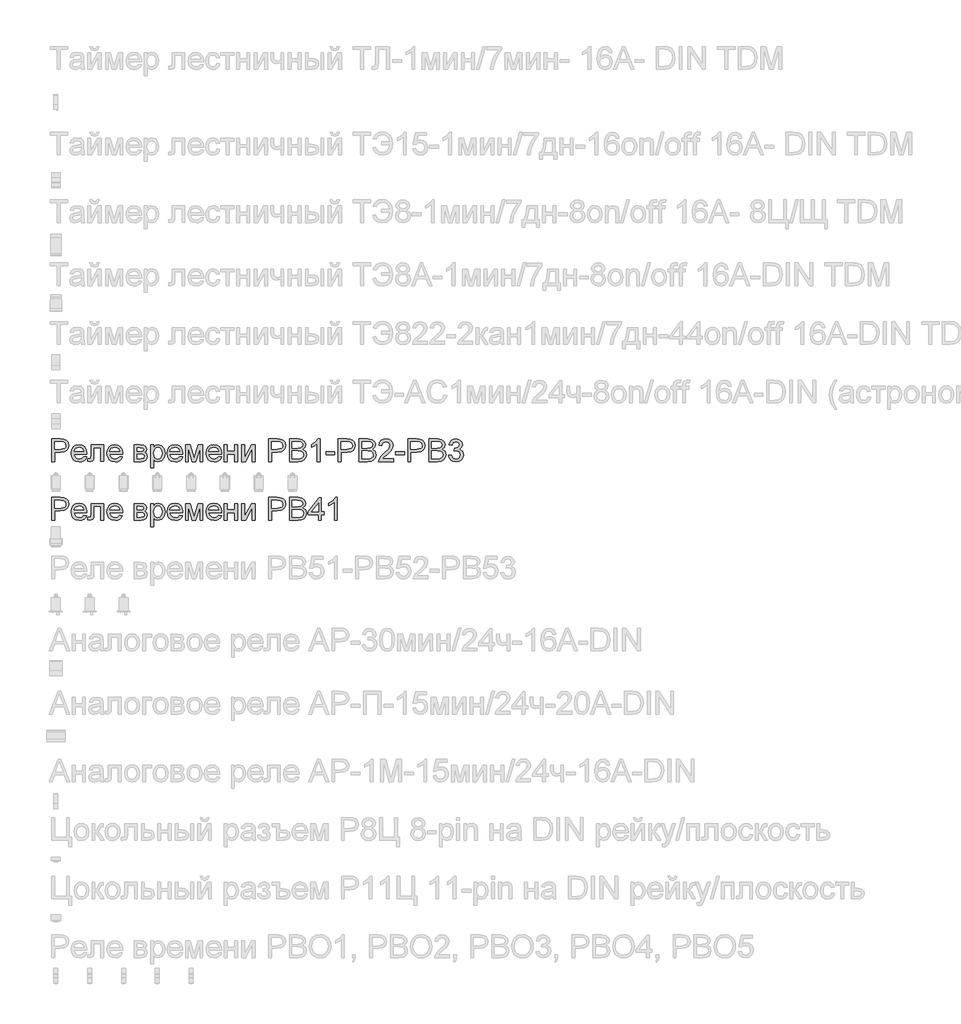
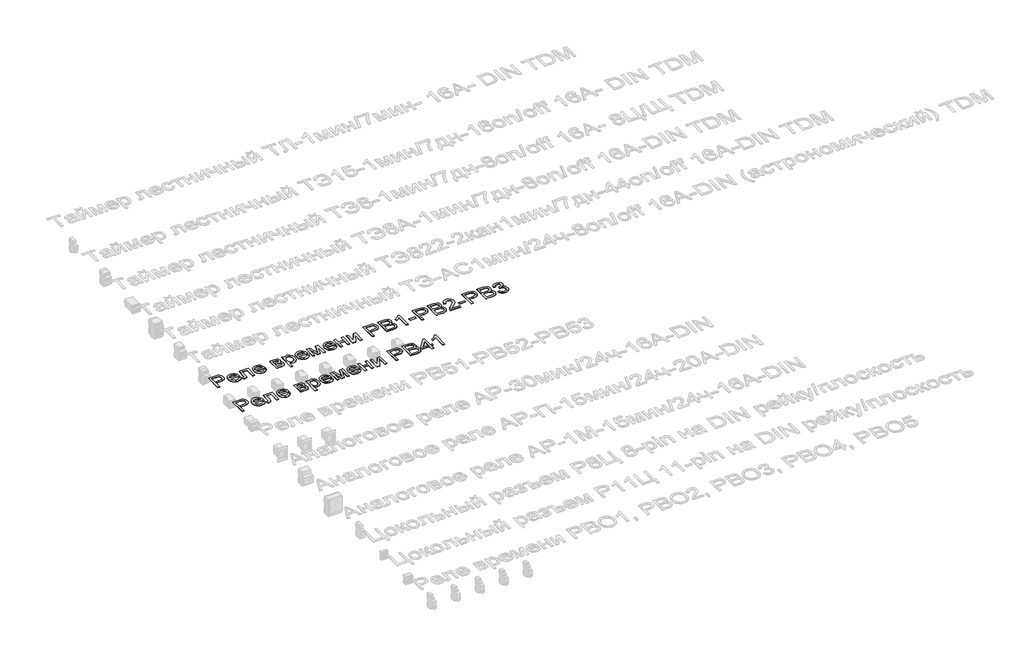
# One storey, part 27 of 34: 2 proxies.
"""IFC4 building model written with IfcOpenShell, lengths in millimetres."""

from ifc_helpers import new_model, si_unit, frame, origin, place, context, project, spatial, polyline, outline, extrude, element, save

model = new_model("IFC4")

# Units and contexts
model_context = context("Model", 3, world=origin())
ifc_project = project(units=[si_unit("LENGTHUNIT", "METRE", prefix="MILLI")], contexts=[model_context])

# Site, building, storey
site = spatial("IfcSite", under=ifc_project)
building = spatial("IfcBuilding", under=site)
storey = spatial("IfcBuildingStorey", under=building, Name="Этаж 01", Elevation=0.0)

# Proxies
placement = place(None, origin())
element("IfcBuildingElementProxy", 1, Name="Надпись на модели 1", ObjectType="Надпись на модели 1", at=placement, inside=storey, context=model_context, shape_type="SweptSolid", body=[
    extrude(outline(polyline([(-19039.0125911, 16796.235284), (-19039.0125911, 16896.6915941), (-19001.7829332, 16896.6915941), (-18986.7733478, 16895.735101), (-18974.5719283, 16891.0384742), (-18966.6624654, 16881.3263895), (-18963.6703585, 16867.6289165), (-18965.6906438, 16855.7892476), (-18971.7514996, 16845.9238788), (-18983.0853308, 16839.2652147), (-19000.9245418, 16837.04566), (-19026.4555523, 16837.04566), (-19026.4555523, 16796.235284), (-19039.0125911, 16796.235284)]), holes=[polyline([(-19026.4555523, 16849.6026988), (-19000.1887779, 16849.6026988), (-18981.6965762, 16854.2134864), (-18977.594692, 16859.7623732), (-18976.2273972, 16867.1874581), (-18979.4524961, 16877.5862559), (-18987.9260447, 16883.2761641), (-19000.4830834, 16884.1345554), (-19026.4555523, 16884.1345554), (-19026.4555523, 16849.6026988)])]), frame((0.0, 0.0, 40.0), z_axis=(0.0, 0.0, 1.0), x_axis=(1.0, 0.0, 0.0)), (0.0, 0.0, 1.0), 2.0),
    extrude(outline(polyline([(-18896.3234279, 16818.2101018), (-18884.0116438, 16816.640472), (-18888.4476875, 16807.3637143), (-18895.5263502, 16800.4291387), (-18905.0882164, 16796.1065253), (-18916.9738705, 16794.6656541), (-18931.7075445, 16797.1519233), (-18943.0444413, 16804.6107308), (-18950.2733225, 16816.5576985), (-18952.6829495, 16832.5084487), (-18950.248797, 16848.9956935), (-18942.9463394, 16861.3258717), (-18931.7627268, 16869.0146054), (-18917.6851091, 16871.5775166), (-18904.0458841, 16869.0207367), (-18893.14738, 16861.3503971), (-18886.0012722, 16849.0447444), (-18883.6192363, 16832.5820251), (-18883.6928127, 16829.1975108), (-18940.1259108, 16829.1975108), (-18937.9523413, 16819.7981258), (-18932.9031609, 16812.8880756), (-18925.6160317, 16808.6390386), (-18916.7286159, 16807.2226929), (-18904.4168318, 16809.8469178), (-18896.3234279, 16818.2101018)]), holes=[polyline([(-18940.1259108, 16841.7545495), (-18896.1762751, 16841.7545495), (-18901.2039957, 16853.1343659), (-18908.5248474, 16857.5489499), (-18917.73416, 16859.0204778), (-18933.1974665, 16854.323851), (-18938.0627059, 16848.8332123), (-18940.1259108, 16841.7545495)])]), frame((0.0, 0.0, 40.0), z_axis=(0.0, 0.0, 1.0), x_axis=(1.0, 0.0, 0.0)), (0.0, 0.0, 1.0), 2.0),
    extrude(outline(polyline([(-18864.7836782, 16870.0078868), (-18808.2770037, 16870.0078868), (-18808.2770037, 16796.3088604), (-18820.8340425, 16796.3088604), (-18820.8340425, 16857.450848), (-18852.2266394, 16857.450848), (-18852.2266394, 16822.2568038), (-18853.072768, 16806.0209451), (-18857.7203439, 16799.1660772), (-18868.7077528, 16796.235284), (-18878.9103468, 16796.8729461), (-18878.9103468, 16808.7923228), (-18873.294015, 16808.7923228), (-18867.6163695, 16809.564875), (-18865.3477639, 16812.0174216), (-18864.7836782, 16822.9680423), (-18864.7836782, 16870.0078868)])), frame((0.0, 0.0, 40.0), z_axis=(0.0, 0.0, 1.0), x_axis=(1.0, 0.0, 0.0)), (0.0, 0.0, 1.0), 2.0),
    extrude(outline(polyline([(-18737.7908134, 16818.2101018), (-18725.4790293, 16816.640472), (-18729.915073, 16807.3637143), (-18736.9937358, 16800.4291387), (-18746.555602, 16796.1065253), (-18758.4412561, 16794.6656541), (-18773.17493, 16797.1519233), (-18784.5118268, 16804.6107308), (-18791.740708, 16816.5576985), (-18794.1503351, 16832.5084487), (-18791.7161826, 16848.9956935), (-18784.4137249, 16861.3258717), (-18773.2301123, 16869.0146054), (-18759.1524946, 16871.5775166), (-18745.5132696, 16869.0207367), (-18734.6147655, 16861.3503971), (-18727.4686578, 16849.0447444), (-18725.0866219, 16832.5820251), (-18725.1601983, 16829.1975108), (-18781.5932963, 16829.1975108), (-18779.4197269, 16819.7981258), (-18774.3705465, 16812.8880756), (-18767.0834173, 16808.6390386), (-18758.1960014, 16807.2226929), (-18745.8842173, 16809.8469178), (-18737.7908134, 16818.2101018)]), holes=[polyline([(-18781.5932963, 16841.7545495), (-18737.6436606, 16841.7545495), (-18742.6713812, 16853.1343659), (-18749.9922329, 16857.5489499), (-18759.2015455, 16859.0204778), (-18774.6648521, 16854.323851), (-18779.5300915, 16848.8332123), (-18781.5932963, 16841.7545495)])]), frame((0.0, 0.0, 40.0), z_axis=(0.0, 0.0, 1.0), x_axis=(1.0, 0.0, 0.0)), (0.0, 0.0, 1.0), 2.0),
    extrude(outline(polyline([(-18673.2888369, 16870.0078868), (-18645.6241109, 16870.0078868), (-18630.45511, 16868.3278923), (-18621.9202477, 16862.1720003), (-18618.3517923, 16851.4421087), (-18620.5100334, 16842.7233055), (-18627.0092819, 16836.5060997), (-18618.5725215, 16829.7002828), (-18615.2125326, 16817.8667453), (-18617.3401168, 16808.2956821), (-18622.3984943, 16801.5573102), (-18630.406059, 16797.5657905), (-18641.3812052, 16796.235284), (-18673.2888369, 16796.235284), (-18673.2888369, 16870.0078868)]), holes=[polyline([(-18660.7317982, 16841.7545495), (-18648.3219122, 16841.7545495), (-18638.08253, 16842.3922117), (-18633.1038603, 16844.9428602), (-18630.9088311, 16849.5536478), (-18634.7593293, 16855.7095399), (-18647.9295047, 16857.450848), (-18660.7317982, 16857.450848), (-18660.7317982, 16841.7545495)]), polyline([(-18660.7317982, 16808.7923228), (-18645.3298053, 16808.7923228), (-18631.6691206, 16811.0609284), (-18627.7695714, 16818.8968149), (-18629.9155497, 16824.9423424), (-18635.507356, 16828.4617468), (-18646.5560786, 16829.1975108), (-18660.7317982, 16829.1975108), (-18660.7317982, 16808.7923228)])]), frame((0.0, 0.0, 40.0), z_axis=(0.0, 0.0, 1.0), x_axis=(1.0, 0.0, 0.0)), (0.0, 0.0, 1.0), 2.0),
    extrude(outline(polyline([(-18599.5162342, 16767.9819468), (-18599.5162342, 16870.0078868), (-18586.9591954, 16870.0078868), (-18586.9591954, 16857.6961027), (-18578.2771803, 16868.1071631), (-18566.5540074, 16871.5775166), (-18550.6369797, 16866.7214743), (-18540.238182, 16853.036264), (-18536.7310403, 16833.6856711), (-18540.6919031, 16813.3417968), (-18552.1943469, 16799.4849083), (-18568.0745863, 16794.6656541), (-18579.0006816, 16797.890753), (-18586.9591954, 16806.0454705), (-18586.9591954, 16767.9819468), (-18599.5162342, 16767.9819468)]), holes=[polyline([(-18586.9591954, 16832.5329742), (-18585.6010977, 16821.2757851), (-18581.5268046, 16813.4031104), (-18575.5149997, 16808.7677973), (-18568.3443664, 16807.2226929), (-18561.0572373, 16808.8229796), (-18554.8921482, 16813.6238396), (-18550.6890964, 16821.7846886), (-18549.2880791, 16833.4649419), (-18550.6553738, 16844.6608173), (-18554.7572581, 16852.6438566), (-18560.759866, 16857.4263225), (-18567.8293317, 16859.0204778), (-18574.9263885, 16857.325155), (-18581.1589226, 16852.2391864), (-18585.5091272, 16843.9219876), (-18586.9591954, 16832.5329742)])]), frame((0.0, 0.0, 40.0), z_axis=(0.0, 0.0, 1.0), x_axis=(1.0, 0.0, 0.0)), (0.0, 0.0, 1.0), 2.0),
    extrude(outline(polyline([(-18470.9537396, 16818.2101018), (-18458.6419555, 16816.640472), (-18463.0779992, 16807.3637143), (-18470.1566619, 16800.4291387), (-18479.7185281, 16796.1065253), (-18491.6041823, 16794.6656541), (-18506.3378562, 16797.1519233), (-18517.674753, 16804.6107308), (-18524.9036342, 16816.5576985), (-18527.3132613, 16832.5084487), (-18524.8791087, 16848.9956935), (-18517.5766511, 16861.3258717), (-18506.3930385, 16869.0146054), (-18492.3154208, 16871.5775166), (-18478.6761958, 16869.0207367), (-18467.7776917, 16861.3503971), (-18460.6315839, 16849.0447444), (-18458.249548, 16832.5820251), (-18458.3231244, 16829.1975108), (-18514.7562225, 16829.1975108), (-18512.582653, 16819.7981258), (-18507.5334726, 16812.8880756), (-18500.2463435, 16808.6390386), (-18491.3589276, 16807.2226929), (-18479.0471435, 16809.8469178), (-18470.9537396, 16818.2101018)]), holes=[polyline([(-18514.7562225, 16841.7545495), (-18470.8065868, 16841.7545495), (-18475.8343074, 16853.1343659), (-18483.1551591, 16857.5489499), (-18492.3644717, 16859.0204778), (-18507.8277782, 16854.323851), (-18512.6930176, 16848.8332123), (-18514.7562225, 16841.7545495)])]), frame((0.0, 0.0, 40.0), z_axis=(0.0, 0.0, 1.0), x_axis=(1.0, 0.0, 0.0)), (0.0, 0.0, 1.0), 2.0),
    extrude(outline(polyline([(-18445.6925093, 16870.0078868), (-18424.0855734, 16870.0078868), (-18407.4327818, 16810.9505638), (-18389.4801404, 16870.0078868), (-18368.7806468, 16870.0078868), (-18368.7806468, 16796.235284), (-18381.3376856, 16796.235284), (-18381.3376856, 16855.6359635), (-18399.3884288, 16796.235284), (-18415.8695422, 16796.235284), (-18433.1354705, 16858.4809176), (-18433.1354705, 16796.235284), (-18445.6925093, 16796.235284), (-18445.6925093, 16870.0078868)])), frame((0.0, 0.0, 40.0), z_axis=(0.0, 0.0, 1.0), x_axis=(1.0, 0.0, 0.0)), (0.0, 0.0, 1.0), 2.0),
    extrude(outline(polyline([(-18298.2944565, 16818.2101018), (-18285.9826724, 16816.640472), (-18290.4187161, 16807.3637143), (-18297.4973789, 16800.4291387), (-18307.0592451, 16796.1065253), (-18318.9448992, 16794.6656541), (-18333.6785731, 16797.1519233), (-18345.0154699, 16804.6107308), (-18352.2443511, 16816.5576985), (-18354.6539782, 16832.5084487), (-18352.2198256, 16848.9956935), (-18344.917368, 16861.3258717), (-18333.7337554, 16869.0146054), (-18319.6561377, 16871.5775166), (-18306.0169127, 16869.0207367), (-18295.1184086, 16861.3503971), (-18287.9723009, 16849.0447444), (-18285.590265, 16832.5820251), (-18285.6638414, 16829.1975108), (-18342.0969394, 16829.1975108), (-18339.92337, 16819.7981258), (-18334.8741896, 16812.8880756), (-18327.5870604, 16808.6390386), (-18318.6996445, 16807.2226929), (-18306.3878604, 16809.8469178), (-18298.2944565, 16818.2101018)]), holes=[polyline([(-18342.0969394, 16841.7545495), (-18298.1473037, 16841.7545495), (-18303.1750243, 16853.1343659), (-18310.495876, 16857.5489499), (-18319.7051886, 16859.0204778), (-18335.1684952, 16854.323851), (-18340.0337346, 16848.8332123), (-18342.0969394, 16841.7545495)])]), frame((0.0, 0.0, 40.0), z_axis=(0.0, 0.0, 1.0), x_axis=(1.0, 0.0, 0.0)), (0.0, 0.0, 1.0), 2.0),
    extrude(outline(polyline([(-18273.0332262, 16870.0078868), (-18260.4761874, 16870.0078868), (-18260.4761874, 16841.7545495), (-18227.5139607, 16841.7545495), (-18227.5139607, 16870.0078868), (-18214.9569219, 16870.0078868), (-18214.9569219, 16796.235284), (-18227.5139607, 16796.235284), (-18227.5139607, 16829.1975108), (-18260.4761874, 16829.1975108), (-18260.4761874, 16796.235284), (-18273.0332262, 16796.235284), (-18273.0332262, 16870.0078868)])), frame((0.0, 0.0, 40.0), z_axis=(0.0, 0.0, 1.0), x_axis=(1.0, 0.0, 0.0)), (0.0, 0.0, 1.0), 2.0),
    extrude(outline(polyline([(-18196.1213637, 16870.0078868), (-18183.564325, 16870.0078868), (-18183.564325, 16813.746467), (-18152.7112883, 16870.0078868), (-18136.4754296, 16870.0078868), (-18136.4754296, 16796.235284), (-18149.0324683, 16796.235284), (-18149.0324683, 16852.1533473), (-18179.6893013, 16796.235284), (-18196.1213637, 16796.235284), (-18196.1213637, 16870.0078868)])), frame((0.0, 0.0, 40.0), z_axis=(0.0, 0.0, 1.0), x_axis=(1.0, 0.0, 0.0)), (0.0, 0.0, 1.0), 2.0),
    extrude(outline(polyline([(-18076.8294954, 16796.235284), (-18076.8294954, 16896.6915941), (-18039.5998375, 16896.6915941), (-18024.5902521, 16895.735101), (-18012.3888326, 16891.0384742), (-18004.4793697, 16881.3263895), (-18001.4872628, 16867.6289165), (-18003.5075481, 16855.7892476), (-18009.568404, 16845.9238788), (-18020.9022351, 16839.2652147), (-18038.7414462, 16837.04566), (-18064.2724567, 16837.04566), (-18064.2724567, 16796.235284), (-18076.8294954, 16796.235284)]), holes=[polyline([(-18064.2724567, 16849.6026988), (-18038.0056822, 16849.6026988), (-18019.5134806, 16854.2134864), (-18015.4115963, 16859.7623732), (-18014.0443016, 16867.1874581), (-18017.2694004, 16877.5862559), (-18025.742949, 16883.2761641), (-18038.2999878, 16884.1345554), (-18064.2724567, 16884.1345554), (-18064.2724567, 16849.6026988)])]), frame((0.0, 0.0, 40.0), z_axis=(0.0, 0.0, 1.0), x_axis=(1.0, 0.0, 0.0)), (0.0, 0.0, 1.0), 2.0),
    extrude(outline(polyline([(-17984.2213345, 16796.235284), (-17984.2213345, 16896.6915941), (-17945.8880306, 16896.6915941), (-17927.1137861, 16893.7362754), (-17916.0282753, 16884.6495902), (-17912.0183616, 16871.7982458), (-17915.3906132, 16860.0628102), (-17925.5809445, 16851.1723286), (-17913.2078467, 16841.8036005), (-17908.8791019, 16826.1808784), (-17911.8344206, 16812.6796092), (-17919.1552723, 16803.0656264), (-17930.0813675, 16797.9643294), (-17946.1823362, 16796.235284), (-17984.2213345, 16796.235284)]), holes=[polyline([(-17971.6642957, 16855.8812181), (-17948.7329847, 16855.8812181), (-17935.3420801, 16856.9603387), (-17927.2854644, 16861.6079145), (-17924.5754004, 16869.7871576), (-17927.1015234, 16877.9786633), (-17934.336536, 16882.8224429), (-17950.4742928, 16884.1345554), (-17971.6642957, 16884.1345554), (-17971.6642957, 16855.8812181)]), polyline([(-17971.6642957, 16808.7923228), (-17945.9125561, 16808.7923228), (-17936.5928789, 16809.2828321), (-17928.7079414, 16812.0174216), (-17923.4840171, 16817.5969652), (-17921.4361407, 16826.0582511), (-17923.8396364, 16835.8193867), (-17931.6264719, 16841.6441849), (-17947.1388294, 16843.3241794), (-17971.6642957, 16843.3241794), (-17971.6642957, 16808.7923228)])]), frame((0.0, 0.0, 40.0), z_axis=(0.0, 0.0, 1.0), x_axis=(1.0, 0.0, 0.0)), (0.0, 0.0, 1.0), 2.0),
    extrude(outline(polyline([(-17849.2331677, 16796.235284), (-17861.7902065, 16796.235284), (-17861.7902065, 16874.5205726), (-17873.6850577, 16866.0470239), (-17886.904284, 16859.7071909), (-17886.904284, 16871.5775166), (-17868.4979216, 16883.325215), (-17857.3265716, 16896.6915941), (-17849.2331677, 16896.6915941), (-17849.2331677, 16796.235284)])), frame((0.0, 0.0, 40.0), z_axis=(0.0, 0.0, 1.0), x_axis=(1.0, 0.0, 0.0)), (0.0, 0.0, 1.0), 2.0),
    extrude(outline(polyline([(-17822.5494604, 16826.0582511), (-17822.5494604, 16838.6152898), (-17783.3087142, 16838.6152898), (-17783.3087142, 16826.0582511), (-17822.5494604, 16826.0582511)])), frame((0.0, 0.0, 40.0), z_axis=(0.0, 0.0, 1.0), x_axis=(1.0, 0.0, 0.0)), (0.0, 0.0, 1.0), 2.0),
    extrude(outline(polyline([(-17767.6124157, 16796.235284), (-17767.6124157, 16896.6915941), (-17730.3827578, 16896.6915941), (-17715.3731724, 16895.735101), (-17703.1717529, 16891.0384742), (-17695.26229, 16881.3263895), (-17692.2701831, 16867.6289165), (-17694.2904684, 16855.7892476), (-17700.3513243, 16845.9238788), (-17711.6851554, 16839.2652147), (-17729.5243665, 16837.04566), (-17755.055377, 16837.04566), (-17755.055377, 16796.235284), (-17767.6124157, 16796.235284)]), holes=[polyline([(-17755.055377, 16849.6026988), (-17728.7886025, 16849.6026988), (-17710.2964009, 16854.2134864), (-17706.1945167, 16859.7623732), (-17704.8272219, 16867.1874581), (-17708.0523207, 16877.5862559), (-17716.5258693, 16883.2761641), (-17729.0829081, 16884.1345554), (-17755.055377, 16884.1345554), (-17755.055377, 16849.6026988)])]), frame((0.0, 0.0, 40.0), z_axis=(0.0, 0.0, 1.0), x_axis=(1.0, 0.0, 0.0)), (0.0, 0.0, 1.0), 2.0),
    extrude(outline(polyline([(-17675.0042548, 16796.235284), (-17675.0042548, 16896.6915941), (-17636.6709509, 16896.6915941), (-17617.8967064, 16893.7362754), (-17606.8111957, 16884.6495902), (-17602.8012819, 16871.7982458), (-17606.1735335, 16860.0628102), (-17616.3638648, 16851.1723286), (-17603.990767, 16841.8036005), (-17599.6620222, 16826.1808784), (-17602.6173409, 16812.6796092), (-17609.9381926, 16803.0656264), (-17620.8642879, 16797.9643294), (-17636.9652565, 16796.235284), (-17675.0042548, 16796.235284)]), holes=[polyline([(-17662.4472161, 16855.8812181), (-17639.515905, 16855.8812181), (-17626.1250004, 16856.9603387), (-17618.0683847, 16861.6079145), (-17615.3583207, 16869.7871576), (-17617.8844437, 16877.9786633), (-17625.1194563, 16882.8224429), (-17641.2572131, 16884.1345554), (-17662.4472161, 16884.1345554), (-17662.4472161, 16855.8812181)]), polyline([(-17662.4472161, 16808.7923228), (-17636.6954764, 16808.7923228), (-17627.3757992, 16809.2828321), (-17619.4908618, 16812.0174216), (-17614.2669374, 16817.5969652), (-17612.219061, 16826.0582511), (-17614.6225567, 16835.8193867), (-17622.4093923, 16841.6441849), (-17637.9217497, 16843.3241794), (-17662.4472161, 16843.3241794), (-17662.4472161, 16808.7923228)])]), frame((0.0, 0.0, 40.0), z_axis=(0.0, 0.0, 1.0), x_axis=(1.0, 0.0, 0.0)), (0.0, 0.0, 1.0), 2.0),
    extrude(outline(polyline([(-17522.7501598, 16808.7923228), (-17522.7501598, 16796.235284), (-17588.6746133, 16796.235284), (-17587.3257126, 16804.8927736), (-17579.6982926, 16818.2223646), (-17563.9774687, 16832.7782288), (-17542.2969564, 16853.6984516), (-17536.8768284, 16867.9232221), (-17541.9903881, 16879.4379286), (-17555.3445045, 16884.1345554), (-17569.2627067, 16879.5482932), (-17574.5479447, 16866.8686271), (-17587.1049834, 16868.4382569), (-17584.0607599, 16880.5844941), (-17577.4787379, 16889.4565816), (-17567.7022739, 16894.882841), (-17555.0747244, 16896.6915941), (-17542.3552044, 16894.6805059), (-17532.5971345, 16888.6472412), (-17526.3891258, 16879.6341323), (-17524.3197896, 16868.6835116), (-17526.551607, 16856.7763977), (-17533.9705606, 16844.4646136), (-17551.9599902, 16827.2599989), (-17566.4054899, 16815.1812067), (-17572.0708726, 16808.7923228), (-17522.7501598, 16808.7923228)])), frame((0.0, 0.0, 40.0), z_axis=(0.0, 0.0, 1.0), x_axis=(1.0, 0.0, 0.0)), (0.0, 0.0, 1.0), 2.0),
    extrude(outline(polyline([(-17513.3323807, 16826.0582511), (-17513.3323807, 16838.6152898), (-17474.0916345, 16838.6152898), (-17474.0916345, 16826.0582511), (-17513.3323807, 16826.0582511)])), frame((0.0, 0.0, 40.0), z_axis=(0.0, 0.0, 1.0), x_axis=(1.0, 0.0, 0.0)), (0.0, 0.0, 1.0), 2.0),
    extrude(outline(polyline([(-17458.3953361, 16796.235284), (-17458.3953361, 16896.6915941), (-17421.1656782, 16896.6915941), (-17406.1560928, 16895.735101), (-17393.9546732, 16891.0384742), (-17386.0452103, 16881.3263895), (-17383.0531035, 16867.6289165), (-17385.0733887, 16855.7892476), (-17391.1342446, 16845.9238788), (-17402.4680758, 16839.2652147), (-17420.3072868, 16837.04566), (-17445.8382973, 16837.04566), (-17445.8382973, 16796.235284), (-17458.3953361, 16796.235284)]), holes=[polyline([(-17445.8382973, 16849.6026988), (-17419.5715228, 16849.6026988), (-17401.0793212, 16854.2134864), (-17396.977437, 16859.7623732), (-17395.6101422, 16867.1874581), (-17398.835241, 16877.5862559), (-17407.3087897, 16883.2761641), (-17419.8658284, 16884.1345554), (-17445.8382973, 16884.1345554), (-17445.8382973, 16849.6026988)])]), frame((0.0, 0.0, 40.0), z_axis=(0.0, 0.0, 1.0), x_axis=(1.0, 0.0, 0.0)), (0.0, 0.0, 1.0), 2.0),
    extrude(outline(polyline([(-17365.7871751, 16796.235284), (-17365.7871751, 16896.6915941), (-17327.4538713, 16896.6915941), (-17308.6796268, 16893.7362754), (-17297.594116, 16884.6495902), (-17293.5842022, 16871.7982458), (-17296.9564539, 16860.0628102), (-17307.1467851, 16851.1723286), (-17294.7736873, 16841.8036005), (-17290.4449425, 16826.1808784), (-17293.4002612, 16812.6796092), (-17300.7211129, 16803.0656264), (-17311.6472082, 16797.9643294), (-17327.7481768, 16796.235284), (-17365.7871751, 16796.235284)]), holes=[polyline([(-17353.2301364, 16855.8812181), (-17330.2988253, 16855.8812181), (-17316.9079207, 16856.9603387), (-17308.851305, 16861.6079145), (-17306.141241, 16869.7871576), (-17308.667364, 16877.9786633), (-17315.9023766, 16882.8224429), (-17332.0401335, 16884.1345554), (-17353.2301364, 16884.1345554), (-17353.2301364, 16855.8812181)]), polyline([(-17353.2301364, 16808.7923228), (-17327.4783967, 16808.7923228), (-17318.1587195, 16809.2828321), (-17310.2737821, 16812.0174216), (-17305.0498577, 16817.5969652), (-17303.0019813, 16826.0582511), (-17305.405477, 16835.8193867), (-17313.1923126, 16841.6441849), (-17328.70467, 16843.3241794), (-17353.2301364, 16843.3241794), (-17353.2301364, 16808.7923228)])]), frame((0.0, 0.0, 40.0), z_axis=(0.0, 0.0, 1.0), x_axis=(1.0, 0.0, 0.0)), (0.0, 0.0, 1.0), 2.0),
    extrude(outline(polyline([(-17277.8879038, 16822.9189914), (-17265.330865, 16824.4886212), (-17258.4024208, 16811.2693949), (-17245.4407118, 16807.2226929), (-17236.8322731, 16808.6145131), (-17230.1858717, 16812.7899738), (-17224.520489, 16826.5732859), (-17230.1368208, 16839.5595203), (-17244.4106422, 16844.6976055), (-17253.2152846, 16843.3241794), (-17251.817333, 16855.8812181), (-17249.8062448, 16855.7340653), (-17235.5569489, 16859.3393089), (-17230.8112711, 16863.9133084), (-17229.2293785, 16870.4248197), (-17233.8156407, 16880.247269), (-17245.6369155, 16884.1345554), (-17257.6053431, 16880.2104808), (-17263.7612352, 16868.4382569), (-17276.3182739, 16870.0078868), (-17272.6210599, 16881.2834699), (-17266.0421035, 16889.7018362), (-17257.0412574, 16894.9441547), (-17246.0783739, 16896.6915941), (-17230.9338984, 16893.2457661), (-17220.338897, 16883.827987), (-17216.6723398, 16871.1605837), (-17220.154956, 16859.5845636), (-17230.4556519, 16851.2704305), (-17216.7704416, 16842.6865173), (-17211.9634502, 16826.3525567), (-17214.3669459, 16814.114349), (-17221.577433, 16803.8872295), (-17232.4606087, 16796.971048), (-17245.8821702, 16794.6656541), (-17258.022276, 16796.6338228), (-17267.906039, 16802.5383288), (-17274.7793009, 16811.5698318), (-17277.8879038, 16822.9189914)])), frame((0.0, 0.0, 40.0), z_axis=(0.0, 0.0, 1.0), x_axis=(1.0, 0.0, 0.0)), (0.0, 0.0, 1.0), 2.0),
])
element("IfcBuildingElementProxy", 2, Name="Надпись на модели 1", ObjectType="Надпись на модели 1", at=placement, inside=storey, context=model_context, shape_type="SweptSolid", body=[
    extrude(outline(polyline([(-19039.0125911, 16536.235284), (-19039.0125911, 16636.6915941), (-19001.7829332, 16636.6915941), (-18986.7733478, 16635.735101), (-18974.5719283, 16631.0384742), (-18966.6624654, 16621.3263895), (-18963.6703585, 16607.6289165), (-18965.6906438, 16595.7892476), (-18971.7514996, 16585.9238788), (-18983.0853308, 16579.2652147), (-19000.9245418, 16577.04566), (-19026.4555523, 16577.04566), (-19026.4555523, 16536.235284), (-19039.0125911, 16536.235284)]), holes=[polyline([(-19026.4555523, 16589.6026988), (-19000.1887779, 16589.6026988), (-18981.6965762, 16594.2134864), (-18977.594692, 16599.7623732), (-18976.2273972, 16607.1874581), (-18979.4524961, 16617.5862559), (-18987.9260447, 16623.2761641), (-19000.4830834, 16624.1345554), (-19026.4555523, 16624.1345554), (-19026.4555523, 16589.6026988)])]), frame((0.0, 0.0, 40.0), z_axis=(0.0, 0.0, 1.0), x_axis=(1.0, 0.0, 0.0)), (0.0, 0.0, 1.0), 2.0),
    extrude(outline(polyline([(-18896.3234279, 16558.2101018), (-18884.0116438, 16556.640472), (-18888.4476875, 16547.3637143), (-18895.5263502, 16540.4291387), (-18905.0882164, 16536.1065253), (-18916.9738705, 16534.6656541), (-18931.7075445, 16537.1519233), (-18943.0444413, 16544.6107308), (-18950.2733225, 16556.5576985), (-18952.6829495, 16572.5084487), (-18950.248797, 16588.9956935), (-18942.9463394, 16601.3258717), (-18931.7627268, 16609.0146054), (-18917.6851091, 16611.5775166), (-18904.0458841, 16609.0207367), (-18893.14738, 16601.3503971), (-18886.0012722, 16589.0447444), (-18883.6192363, 16572.5820251), (-18883.6928127, 16569.1975108), (-18940.1259108, 16569.1975108), (-18937.9523413, 16559.7981258), (-18932.9031609, 16552.8880756), (-18925.6160317, 16548.6390386), (-18916.7286159, 16547.2226929), (-18904.4168318, 16549.8469178), (-18896.3234279, 16558.2101018)]), holes=[polyline([(-18940.1259108, 16581.7545495), (-18896.1762751, 16581.7545495), (-18901.2039957, 16593.1343659), (-18908.5248474, 16597.5489499), (-18917.73416, 16599.0204778), (-18933.1974665, 16594.323851), (-18938.0627059, 16588.8332123), (-18940.1259108, 16581.7545495)])]), frame((0.0, 0.0, 40.0), z_axis=(0.0, 0.0, 1.0), x_axis=(1.0, 0.0, 0.0)), (0.0, 0.0, 1.0), 2.0),
    extrude(outline(polyline([(-18864.7836782, 16610.0078868), (-18808.2770037, 16610.0078868), (-18808.2770037, 16536.3088604), (-18820.8340425, 16536.3088604), (-18820.8340425, 16597.450848), (-18852.2266394, 16597.450848), (-18852.2266394, 16562.2568038), (-18853.072768, 16546.0209451), (-18857.7203439, 16539.1660772), (-18868.7077528, 16536.235284), (-18878.9103468, 16536.8729461), (-18878.9103468, 16548.7923228), (-18873.294015, 16548.7923228), (-18867.6163695, 16549.564875), (-18865.3477639, 16552.0174216), (-18864.7836782, 16562.9680423), (-18864.7836782, 16610.0078868)])), frame((0.0, 0.0, 40.0), z_axis=(0.0, 0.0, 1.0), x_axis=(1.0, 0.0, 0.0)), (0.0, 0.0, 1.0), 2.0),
    extrude(outline(polyline([(-18737.7908134, 16558.2101018), (-18725.4790293, 16556.640472), (-18729.915073, 16547.3637143), (-18736.9937358, 16540.4291387), (-18746.555602, 16536.1065253), (-18758.4412561, 16534.6656541), (-18773.17493, 16537.1519233), (-18784.5118268, 16544.6107308), (-18791.740708, 16556.5576985), (-18794.1503351, 16572.5084487), (-18791.7161826, 16588.9956935), (-18784.4137249, 16601.3258717), (-18773.2301123, 16609.0146054), (-18759.1524946, 16611.5775166), (-18745.5132696, 16609.0207367), (-18734.6147655, 16601.3503971), (-18727.4686578, 16589.0447444), (-18725.0866219, 16572.5820251), (-18725.1601983, 16569.1975108), (-18781.5932963, 16569.1975108), (-18779.4197269, 16559.7981258), (-18774.3705465, 16552.8880756), (-18767.0834173, 16548.6390386), (-18758.1960014, 16547.2226929), (-18745.8842173, 16549.8469178), (-18737.7908134, 16558.2101018)]), holes=[polyline([(-18781.5932963, 16581.7545495), (-18737.6436606, 16581.7545495), (-18742.6713812, 16593.1343659), (-18749.9922329, 16597.5489499), (-18759.2015455, 16599.0204778), (-18774.6648521, 16594.323851), (-18779.5300915, 16588.8332123), (-18781.5932963, 16581.7545495)])]), frame((0.0, 0.0, 40.0), z_axis=(0.0, 0.0, 1.0), x_axis=(1.0, 0.0, 0.0)), (0.0, 0.0, 1.0), 2.0),
    extrude(outline(polyline([(-18673.2888369, 16610.0078868), (-18645.6241109, 16610.0078868), (-18630.45511, 16608.3278923), (-18621.9202477, 16602.1720003), (-18618.3517923, 16591.4421087), (-18620.5100334, 16582.7233055), (-18627.0092819, 16576.5060997), (-18618.5725215, 16569.7002828), (-18615.2125326, 16557.8667453), (-18617.3401168, 16548.2956821), (-18622.3984943, 16541.5573102), (-18630.406059, 16537.5657905), (-18641.3812052, 16536.235284), (-18673.2888369, 16536.235284), (-18673.2888369, 16610.0078868)]), holes=[polyline([(-18660.7317982, 16581.7545495), (-18648.3219122, 16581.7545495), (-18638.08253, 16582.3922117), (-18633.1038603, 16584.9428602), (-18630.9088311, 16589.5536478), (-18634.7593293, 16595.7095399), (-18647.9295047, 16597.450848), (-18660.7317982, 16597.450848), (-18660.7317982, 16581.7545495)]), polyline([(-18660.7317982, 16548.7923228), (-18645.3298053, 16548.7923228), (-18631.6691206, 16551.0609284), (-18627.7695714, 16558.8968149), (-18629.9155497, 16564.9423424), (-18635.507356, 16568.4617468), (-18646.5560786, 16569.1975108), (-18660.7317982, 16569.1975108), (-18660.7317982, 16548.7923228)])]), frame((0.0, 0.0, 40.0), z_axis=(0.0, 0.0, 1.0), x_axis=(1.0, 0.0, 0.0)), (0.0, 0.0, 1.0), 2.0),
    extrude(outline(polyline([(-18599.5162342, 16507.9819468), (-18599.5162342, 16610.0078868), (-18586.9591954, 16610.0078868), (-18586.9591954, 16597.6961027), (-18578.2771803, 16608.1071631), (-18566.5540074, 16611.5775166), (-18550.6369797, 16606.7214743), (-18540.238182, 16593.036264), (-18536.7310403, 16573.6856711), (-18540.6919031, 16553.3417968), (-18552.1943469, 16539.4849083), (-18568.0745863, 16534.6656541), (-18579.0006816, 16537.890753), (-18586.9591954, 16546.0454705), (-18586.9591954, 16507.9819468), (-18599.5162342, 16507.9819468)]), holes=[polyline([(-18586.9591954, 16572.5329742), (-18585.6010977, 16561.2757851), (-18581.5268046, 16553.4031104), (-18575.5149997, 16548.7677973), (-18568.3443664, 16547.2226929), (-18561.0572373, 16548.8229796), (-18554.8921482, 16553.6238396), (-18550.6890964, 16561.7846886), (-18549.2880791, 16573.4649419), (-18550.6553738, 16584.6608173), (-18554.7572581, 16592.6438566), (-18560.759866, 16597.4263225), (-18567.8293317, 16599.0204778), (-18574.9263885, 16597.325155), (-18581.1589226, 16592.2391864), (-18585.5091272, 16583.9219876), (-18586.9591954, 16572.5329742)])]), frame((0.0, 0.0, 40.0), z_axis=(0.0, 0.0, 1.0), x_axis=(1.0, 0.0, 0.0)), (0.0, 0.0, 1.0), 2.0),
    extrude(outline(polyline([(-18470.9537396, 16558.2101018), (-18458.6419555, 16556.640472), (-18463.0779992, 16547.3637143), (-18470.1566619, 16540.4291387), (-18479.7185281, 16536.1065253), (-18491.6041823, 16534.6656541), (-18506.3378562, 16537.1519233), (-18517.674753, 16544.6107308), (-18524.9036342, 16556.5576985), (-18527.3132613, 16572.5084487), (-18524.8791087, 16588.9956935), (-18517.5766511, 16601.3258717), (-18506.3930385, 16609.0146054), (-18492.3154208, 16611.5775166), (-18478.6761958, 16609.0207367), (-18467.7776917, 16601.3503971), (-18460.6315839, 16589.0447444), (-18458.249548, 16572.5820251), (-18458.3231244, 16569.1975108), (-18514.7562225, 16569.1975108), (-18512.582653, 16559.7981258), (-18507.5334726, 16552.8880756), (-18500.2463435, 16548.6390386), (-18491.3589276, 16547.2226929), (-18479.0471435, 16549.8469178), (-18470.9537396, 16558.2101018)]), holes=[polyline([(-18514.7562225, 16581.7545495), (-18470.8065868, 16581.7545495), (-18475.8343074, 16593.1343659), (-18483.1551591, 16597.5489499), (-18492.3644717, 16599.0204778), (-18507.8277782, 16594.323851), (-18512.6930176, 16588.8332123), (-18514.7562225, 16581.7545495)])]), frame((0.0, 0.0, 40.0), z_axis=(0.0, 0.0, 1.0), x_axis=(1.0, 0.0, 0.0)), (0.0, 0.0, 1.0), 2.0),
    extrude(outline(polyline([(-18445.6925093, 16610.0078868), (-18424.0855734, 16610.0078868), (-18407.4327818, 16550.9505638), (-18389.4801404, 16610.0078868), (-18368.7806468, 16610.0078868), (-18368.7806468, 16536.235284), (-18381.3376856, 16536.235284), (-18381.3376856, 16595.6359635), (-18399.3884288, 16536.235284), (-18415.8695422, 16536.235284), (-18433.1354705, 16598.4809176), (-18433.1354705, 16536.235284), (-18445.6925093, 16536.235284), (-18445.6925093, 16610.0078868)])), frame((0.0, 0.0, 40.0), z_axis=(0.0, 0.0, 1.0), x_axis=(1.0, 0.0, 0.0)), (0.0, 0.0, 1.0), 2.0),
    extrude(outline(polyline([(-18298.2944565, 16558.2101018), (-18285.9826724, 16556.640472), (-18290.4187161, 16547.3637143), (-18297.4973789, 16540.4291387), (-18307.0592451, 16536.1065253), (-18318.9448992, 16534.6656541), (-18333.6785731, 16537.1519233), (-18345.0154699, 16544.6107308), (-18352.2443511, 16556.5576985), (-18354.6539782, 16572.5084487), (-18352.2198256, 16588.9956935), (-18344.917368, 16601.3258717), (-18333.7337554, 16609.0146054), (-18319.6561377, 16611.5775166), (-18306.0169127, 16609.0207367), (-18295.1184086, 16601.3503971), (-18287.9723009, 16589.0447444), (-18285.590265, 16572.5820251), (-18285.6638414, 16569.1975108), (-18342.0969394, 16569.1975108), (-18339.92337, 16559.7981258), (-18334.8741896, 16552.8880756), (-18327.5870604, 16548.6390386), (-18318.6996445, 16547.2226929), (-18306.3878604, 16549.8469178), (-18298.2944565, 16558.2101018)]), holes=[polyline([(-18342.0969394, 16581.7545495), (-18298.1473037, 16581.7545495), (-18303.1750243, 16593.1343659), (-18310.495876, 16597.5489499), (-18319.7051886, 16599.0204778), (-18335.1684952, 16594.323851), (-18340.0337346, 16588.8332123), (-18342.0969394, 16581.7545495)])]), frame((0.0, 0.0, 40.0), z_axis=(0.0, 0.0, 1.0), x_axis=(1.0, 0.0, 0.0)), (0.0, 0.0, 1.0), 2.0),
    extrude(outline(polyline([(-18273.0332262, 16610.0078868), (-18260.4761874, 16610.0078868), (-18260.4761874, 16581.7545495), (-18227.5139607, 16581.7545495), (-18227.5139607, 16610.0078868), (-18214.9569219, 16610.0078868), (-18214.9569219, 16536.235284), (-18227.5139607, 16536.235284), (-18227.5139607, 16569.1975108), (-18260.4761874, 16569.1975108), (-18260.4761874, 16536.235284), (-18273.0332262, 16536.235284), (-18273.0332262, 16610.0078868)])), frame((0.0, 0.0, 40.0), z_axis=(0.0, 0.0, 1.0), x_axis=(1.0, 0.0, 0.0)), (0.0, 0.0, 1.0), 2.0),
    extrude(outline(polyline([(-18196.1213637, 16610.0078868), (-18183.564325, 16610.0078868), (-18183.564325, 16553.746467), (-18152.7112883, 16610.0078868), (-18136.4754296, 16610.0078868), (-18136.4754296, 16536.235284), (-18149.0324683, 16536.235284), (-18149.0324683, 16592.1533473), (-18179.6893013, 16536.235284), (-18196.1213637, 16536.235284), (-18196.1213637, 16610.0078868)])), frame((0.0, 0.0, 40.0), z_axis=(0.0, 0.0, 1.0), x_axis=(1.0, 0.0, 0.0)), (0.0, 0.0, 1.0), 2.0),
    extrude(outline(polyline([(-18076.8294954, 16536.235284), (-18076.8294954, 16636.6915941), (-18039.5998375, 16636.6915941), (-18024.5902521, 16635.735101), (-18012.3888326, 16631.0384742), (-18004.4793697, 16621.3263895), (-18001.4872628, 16607.6289165), (-18003.5075481, 16595.7892476), (-18009.568404, 16585.9238788), (-18020.9022351, 16579.2652147), (-18038.7414462, 16577.04566), (-18064.2724567, 16577.04566), (-18064.2724567, 16536.235284), (-18076.8294954, 16536.235284)]), holes=[polyline([(-18064.2724567, 16589.6026988), (-18038.0056822, 16589.6026988), (-18019.5134806, 16594.2134864), (-18015.4115963, 16599.7623732), (-18014.0443016, 16607.1874581), (-18017.2694004, 16617.5862559), (-18025.742949, 16623.2761641), (-18038.2999878, 16624.1345554), (-18064.2724567, 16624.1345554), (-18064.2724567, 16589.6026988)])]), frame((0.0, 0.0, 40.0), z_axis=(0.0, 0.0, 1.0), x_axis=(1.0, 0.0, 0.0)), (0.0, 0.0, 1.0), 2.0),
    extrude(outline(polyline([(-17984.2213345, 16536.235284), (-17984.2213345, 16636.6915941), (-17945.8880306, 16636.6915941), (-17927.1137861, 16633.7362754), (-17916.0282753, 16624.6495902), (-17912.0183616, 16611.7982458), (-17915.3906132, 16600.0628102), (-17925.5809445, 16591.1723286), (-17913.2078467, 16581.8036005), (-17908.8791019, 16566.1808784), (-17911.8344206, 16552.6796092), (-17919.1552723, 16543.0656264), (-17930.0813675, 16537.9643294), (-17946.1823362, 16536.235284), (-17984.2213345, 16536.235284)]), holes=[polyline([(-17971.6642957, 16595.8812181), (-17948.7329847, 16595.8812181), (-17935.3420801, 16596.9603387), (-17927.2854644, 16601.6079145), (-17924.5754004, 16609.7871576), (-17927.1015234, 16617.9786633), (-17934.336536, 16622.8224429), (-17950.4742928, 16624.1345554), (-17971.6642957, 16624.1345554), (-17971.6642957, 16595.8812181)]), polyline([(-17971.6642957, 16548.7923228), (-17945.9125561, 16548.7923228), (-17936.5928789, 16549.2828321), (-17928.7079414, 16552.0174216), (-17923.4840171, 16557.5969652), (-17921.4361407, 16566.0582511), (-17923.8396364, 16575.8193867), (-17931.6264719, 16581.6441849), (-17947.1388294, 16583.3241794), (-17971.6642957, 16583.3241794), (-17971.6642957, 16548.7923228)])]), frame((0.0, 0.0, 40.0), z_axis=(0.0, 0.0, 1.0), x_axis=(1.0, 0.0, 0.0)), (0.0, 0.0, 1.0), 2.0),
    extrude(outline(polyline([(-17855.5116871, 16536.235284), (-17855.5116871, 16559.7797317), (-17901.0309527, 16559.7797317), (-17901.0309527, 16572.3367705), (-17852.3724274, 16635.1219643), (-17842.9546484, 16635.1219643), (-17842.9546484, 16572.3367705), (-17830.3976096, 16572.3367705), (-17830.3976096, 16559.7797317), (-17842.9546484, 16559.7797317), (-17842.9546484, 16536.235284), (-17855.5116871, 16536.235284)]), holes=[polyline([(-17855.5116871, 16572.3367705), (-17855.5116871, 16611.1360582), (-17885.5799089, 16572.3367705), (-17855.5116871, 16572.3367705)])]), frame((0.0, 0.0, 40.0), z_axis=(0.0, 0.0, 1.0), x_axis=(1.0, 0.0, 0.0)), (0.0, 0.0, 1.0), 2.0),
    extrude(outline(polyline([(-17772.3213053, 16536.235284), (-17784.8783441, 16536.235284), (-17784.8783441, 16614.5205726), (-17796.7731952, 16606.0470239), (-17809.9924216, 16599.7071909), (-17809.9924216, 16611.5775166), (-17791.5860591, 16623.325215), (-17780.4147092, 16636.6915941), (-17772.3213053, 16636.6915941), (-17772.3213053, 16536.235284)])), frame((0.0, 0.0, 40.0), z_axis=(0.0, 0.0, 1.0), x_axis=(1.0, 0.0, 0.0)), (0.0, 0.0, 1.0), 2.0),
])

save(model, "model.ifc")
